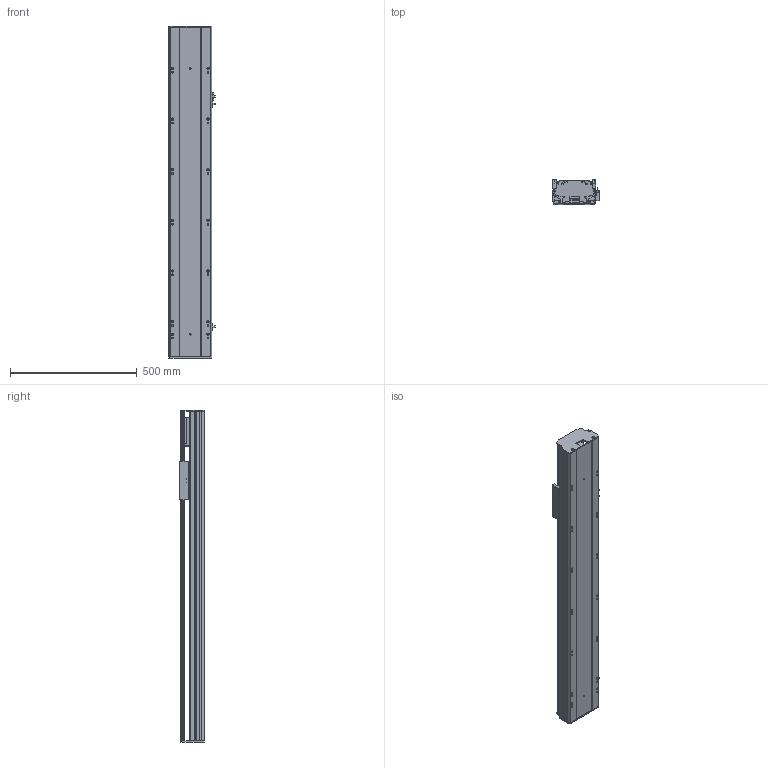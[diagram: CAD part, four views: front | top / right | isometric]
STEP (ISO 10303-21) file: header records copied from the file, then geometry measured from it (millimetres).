
FILE_DESCRIPTION (( 'STEP AP203' ), '1' );
FILE_NAME ('Y170-D10-S900-M-P400W.STEP', '2020-01-22T12:57:07', ( '微软用户' ), ( '微软中国' ), 'SwSTEP 2.0', 'SolidWorks 2017', '' );
FILE_SCHEMA (( 'CONFIG_CONTROL_DESIGN' ));
Length unit declared in the file: millimetre
Products named in the file (10): Y170耜裔--準---; Y170--雄赽釱-梓--; 170--掛极-M; Y170耜裔--準---M; san松下电机400不带刹车----; Y170-陔遴奻裔-M; YD-Y100-135-新外置传感挡片(通用）; Y170-D10-S900-M-P400W; Y100-135俋离換覜ん; 135-盓傅釱-FK15
Assembly tree (11 placements, depth 2):
  Y170-D10-S900-M-P400W
    YD-Y100-135-新外置传感挡片(通用）
    Y100-135俋离換覜ん  x3
    135-盓傅釱-FK15
    Y170耜裔--準---
    Y170--雄赽釱-梓--
    170--掛极-M
    Y170耜裔--準---M
    san松下电机400不带刹车----
    Y170-陔遴奻裔-M
Bounding box: 183.5 x 97 x 1311 mm (x, y, z)
Volume: 5667067.8 mm3; surface area: 2005385 mm2
Topology: 11 solids, 11 shells, 797 faces, 2276 edges, 1508 vertices
Faces by surface type: cylinder 411, plane 384, torus 2
Entity records: 25980 total; most frequent: CARTESIAN_POINT 4681, DIRECTION 4302, ORIENTED_EDGE 4216, EDGE_CURVE 2108, AXIS2_PLACEMENT_3D 1529, VERTEX_POINT 1396, VECTOR 1244, LINE 1244
